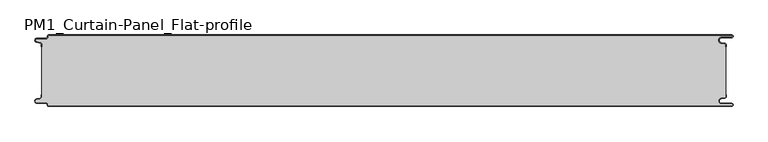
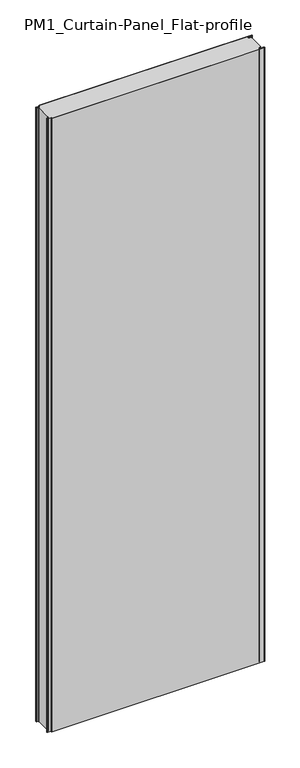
"""IFC4 building model written with IfcOpenShell, lengths in millimetres: plate geometry, PM1_Curtain-Panel_Flat-profile : ACH_PM1_Stone-wool-Panel_120M."""

from ifc_helpers import new_model, si_unit, point, frame_2d, origin, origin_with_axes, place, context, project, spatial, polyline, circle_curve, trimmed, segment, composite_curve, outline, extrude, source, transform, mapped, element, save


def pm1_curtain_panel_flat_profile_749cd09d(model_context):
    return source(origin(), model_context, "Body", "SweptSolid", [
        extrude(outline(composite_curve([segment(polyline([(-562.4, 0.0), (583.1, 0.0)]), True, "CONTINUOUS"), segment(trimmed(circle_curve(frame_2d((583.1, -2.5)), 2.5), [point((583.1, 0.0))], [point((583.1, -5.0))], False, "CARTESIAN"), True, "CONTINUOUS"), segment(polyline([(583.1, -5.0), (566.1, -5.0)]), True, "CONTINUOUS"), segment(trimmed(circle_curve(frame_2d((566.1, -9.0)), 4.0), [point((566.1, -5.0))], [point((565.4054075, -12.939231))], True, "CARTESIAN"), True, "CONTINUOUS"), segment(polyline([(565.4054075, -12.939231), (571.8514851, -14.075848)]), True, "CONTINUOUS"), segment(trimmed(circle_curve(frame_2d((571.4, -16.636348)), 2.6), [point((571.8514851, -14.075848))], [point((574.0, -16.636348))], False, "CARTESIAN"), True, "CONTINUOUS"), segment(polyline([(574.0, -16.636348), (574.0, -20.0), (573.2, -20.0), (573.2, -16.636348)]), True, "CONTINUOUS"), segment(trimmed(circle_curve(frame_2d((571.4, -16.636348)), 1.8), [point((573.2, -16.636348))], [point((571.7125666, -14.863694))], True, "CARTESIAN"), True, "CONTINUOUS"), segment(polyline([(571.7125666, -14.863694), (565.266489, -13.7270771)]), True, "CONTINUOUS"), segment(trimmed(circle_curve(frame_2d((566.1, -9.0)), 4.8), [point((565.266489, -13.7270771))], [point((566.1, -4.2))], False, "CARTESIAN"), True, "CONTINUOUS"), segment(polyline([(566.1, -4.2), (583.1, -4.2)]), True, "CONTINUOUS"), segment(trimmed(circle_curve(frame_2d((583.1, -2.5)), 1.7), [point((583.1, -4.2))], [point((583.1, -0.8))], True, "CARTESIAN"), True, "CONTINUOUS"), segment(polyline([(583.1, -0.8), (-562.4, -0.8)]), True, "CONTINUOUS"), segment(trimmed(circle_curve(frame_2d((-562.4, -2.0)), 1.2), [point((-562.4, -0.8))], [point((-563.6, -2.0))], True, "CARTESIAN"), True, "CONTINUOUS"), segment(polyline([(-563.6, -2.0), (-563.6, -3.4)]), True, "CONTINUOUS"), segment(trimmed(circle_curve(frame_2d((-566.4, -3.4)), 2.8), [point((-563.6, -3.4))], [point((-566.4, -6.2))], False, "CARTESIAN"), True, "CONTINUOUS"), segment(polyline([(-566.4, -6.2), (-581.9, -6.2)]), True, "CONTINUOUS"), segment(trimmed(circle_curve(frame_2d((-581.9, -9.0)), 2.8), [point((-581.9, -6.2))], [point((-582.529863, -11.7282362))], True, "CARTESIAN"), True, "CONTINUOUS"), segment(polyline([(-582.529863, -11.7282362), (-576.370137, -13.150321)]), True, "CONTINUOUS"), segment(trimmed(circle_curve(frame_2d((-577.0, -15.878557)), 2.8), [point((-576.370137, -13.150321))], [point((-574.2, -15.878557))], False, "CARTESIAN"), True, "CONTINUOUS"), segment(polyline([(-574.2, -15.878557), (-574.2, -20.0), (-575.0, -20.0), (-575.0, -15.878557)]), True, "CONTINUOUS"), segment(trimmed(circle_curve(frame_2d((-577.0, -15.878557)), 2.0), [point((-575.0, -15.878557))], [point((-576.5500978, -13.9298169))], True, "CARTESIAN"), True, "CONTINUOUS"), segment(polyline([(-576.5500978, -13.9298169), (-582.7098239, -12.507732)]), True, "CONTINUOUS"), segment(trimmed(circle_curve(frame_2d((-581.9, -9.0)), 3.6), [point((-582.7098239, -12.507732))], [point((-581.9, -5.4))], False, "CARTESIAN"), True, "CONTINUOUS"), segment(polyline([(-581.9, -5.4), (-566.4, -5.4)]), True, "CONTINUOUS"), segment(trimmed(circle_curve(frame_2d((-566.4, -3.4)), 2.0), [point((-566.4, -5.4))], [point((-564.4, -3.4))], True, "CARTESIAN"), True, "CONTINUOUS"), segment(polyline([(-564.4, -3.4), (-564.4, -2.0)]), True, "CONTINUOUS"), segment(trimmed(circle_curve(frame_2d((-562.4, -2.0)), 2.0), [point((-564.4, -2.0))], [point((-562.4, 0.0))], False, "CARTESIAN"), True, "CONTINUOUS")], self_intersect=False)), origin_with_axes(), (0.0, 0.0, 1.0), 3500.0),
        extrude(outline(composite_curve([segment(polyline([(-574.2, -104.1214426), (-574.2, -15.8785573)]), True, "CONTINUOUS"), segment(trimmed(circle_curve(frame_2d((-577.0, -15.8785573)), 2.8), [point((-574.2, -15.8785573))], [point((-576.370137, -13.1503212))], True, "CARTESIAN"), True, "CONTINUOUS"), segment(polyline([(-576.370137, -13.1503212), (-582.5298631, -11.7282362)]), True, "CONTINUOUS"), segment(trimmed(circle_curve(frame_2d((-581.9, -9.0)), 2.8), [point((-582.5298631, -11.7282362))], [point((-581.9, -6.2))], False, "CARTESIAN"), True, "CONTINUOUS"), segment(polyline([(-581.9, -6.2), (-566.4000001, -6.2)]), True, "CONTINUOUS"), segment(trimmed(circle_curve(frame_2d((-566.4000001, -3.4)), 2.8), [point((-566.4000001, -6.2))], [point((-563.6000001, -3.4))], True, "CARTESIAN"), True, "CONTINUOUS"), segment(polyline([(-563.6000001, -3.4), (-563.6000001, -2.0)]), True, "CONTINUOUS"), segment(trimmed(circle_curve(frame_2d((-562.4000001, -2.0)), 1.2), [point((-563.6000001, -2.0))], [point((-562.4000001, -0.8))], False, "CARTESIAN"), True, "CONTINUOUS"), segment(polyline([(-562.4000001, -0.8), (583.1, -0.8)]), True, "CONTINUOUS"), segment(trimmed(circle_curve(frame_2d((583.1, -2.5)), 1.7), [point((583.1, -0.8))], [point((583.1, -4.2))], False, "CARTESIAN"), True, "CONTINUOUS"), segment(polyline([(583.1, -4.2), (566.1, -4.2)]), True, "CONTINUOUS"), segment(trimmed(circle_curve(frame_2d((566.1, -9.0)), 4.8), [point((566.1, -4.2))], [point((565.2664883, -13.7270771))], True, "CARTESIAN"), True, "CONTINUOUS"), segment(polyline([(565.2664883, -13.7270771), (571.7125668, -14.8636953)]), True, "CONTINUOUS"), segment(trimmed(circle_curve(frame_2d((571.4, -16.6363492)), 1.8), [point((571.7125668, -14.8636953))], [point((573.2, -16.6363492))], False, "CARTESIAN"), True, "CONTINUOUS"), segment(polyline([(573.2, -16.6363492), (573.2, -103.3636508)]), True, "CONTINUOUS"), segment(trimmed(circle_curve(frame_2d((571.4, -103.3636508)), 1.8), [point((573.2, -103.3636508))], [point((571.7125668, -105.1363047))], False, "CARTESIAN"), True, "CONTINUOUS"), segment(polyline([(571.7125668, -105.1363047), (565.2664883, -106.2729229)]), True, "CONTINUOUS"), segment(trimmed(circle_curve(frame_2d((566.1, -111.0)), 4.8), [point((565.2664883, -106.2729229))], [point((566.1, -115.8))], True, "CARTESIAN"), True, "CONTINUOUS"), segment(polyline([(566.1, -115.8), (583.1, -115.8)]), True, "CONTINUOUS"), segment(trimmed(circle_curve(frame_2d((583.1, -117.5)), 1.7), [point((583.1, -115.8))], [point((583.1, -119.2))], False, "CARTESIAN"), True, "CONTINUOUS"), segment(polyline([(583.1, -119.2), (-562.4000001, -119.2)]), True, "CONTINUOUS"), segment(trimmed(circle_curve(frame_2d((-562.4000001, -118.0)), 1.2), [point((-562.4000001, -119.2))], [point((-563.6000001, -118.0))], False, "CARTESIAN"), True, "CONTINUOUS"), segment(polyline([(-563.6000001, -118.0), (-563.6000001, -116.6)]), True, "CONTINUOUS"), segment(trimmed(circle_curve(frame_2d((-566.4000001, -116.6)), 2.8), [point((-563.6000001, -116.6))], [point((-566.4000001, -113.8))], True, "CARTESIAN"), True, "CONTINUOUS"), segment(polyline([(-566.4000001, -113.8), (-581.9, -113.8)]), True, "CONTINUOUS"), segment(trimmed(circle_curve(frame_2d((-581.9, -111.0)), 2.8), [point((-581.9, -113.8))], [point((-582.5298631, -108.2717638))], False, "CARTESIAN"), True, "CONTINUOUS"), segment(polyline([(-582.5298631, -108.2717638), (-576.370137, -106.8496788)]), True, "CONTINUOUS"), segment(trimmed(circle_curve(frame_2d((-577.0, -104.1214426)), 2.8), [point((-576.370137, -106.8496788))], [point((-574.2, -104.1214426))], True, "CARTESIAN"), True, "CONTINUOUS")], self_intersect=False)), origin_with_axes(), (0.0, 0.0, 1.0), 3500.0),
        extrude(outline(composite_curve([segment(polyline([(583.1, -120.0), (-562.4, -120.0)]), True, "CONTINUOUS"), segment(trimmed(circle_curve(frame_2d((-562.4, -118.0)), 2.0), [point((-562.4, -120.0))], [point((-564.4, -118.0))], False, "CARTESIAN"), True, "CONTINUOUS"), segment(polyline([(-564.4, -118.0), (-564.4, -116.6)]), True, "CONTINUOUS"), segment(trimmed(circle_curve(frame_2d((-566.4, -116.6)), 2.0), [point((-564.4, -116.6))], [point((-566.4, -114.6))], True, "CARTESIAN"), True, "CONTINUOUS"), segment(polyline([(-566.4, -114.6), (-581.9, -114.6)]), True, "CONTINUOUS"), segment(trimmed(circle_curve(frame_2d((-581.9, -111.0)), 3.6), [point((-581.9, -114.6))], [point((-582.7098239, -107.4922678))], False, "CARTESIAN"), True, "CONTINUOUS"), segment(polyline([(-582.7098239, -107.4922678), (-576.5500979, -106.070183)]), True, "CONTINUOUS"), segment(trimmed(circle_curve(frame_2d((-577.0, -104.121443)), 2.0), [point((-576.5500979, -106.070183))], [point((-575.0, -104.121443))], True, "CARTESIAN"), True, "CONTINUOUS"), segment(polyline([(-575.0, -104.121443), (-575.0, -100.0), (-574.2, -100.0), (-574.2, -104.121443)]), True, "CONTINUOUS"), segment(trimmed(circle_curve(frame_2d((-577.0, -104.121443)), 2.8), [point((-574.2, -104.121443))], [point((-576.370137, -106.8496792))], False, "CARTESIAN"), True, "CONTINUOUS"), segment(polyline([(-576.370137, -106.8496792), (-582.529863, -108.271764)]), True, "CONTINUOUS"), segment(trimmed(circle_curve(frame_2d((-581.9, -111.0)), 2.8), [point((-582.529863, -108.271764))], [point((-581.9, -113.8))], True, "CARTESIAN"), True, "CONTINUOUS"), segment(polyline([(-581.9, -113.8), (-566.4, -113.8)]), True, "CONTINUOUS"), segment(trimmed(circle_curve(frame_2d((-566.4, -116.6)), 2.8), [point((-566.4, -113.8))], [point((-563.6, -116.6))], False, "CARTESIAN"), True, "CONTINUOUS"), segment(polyline([(-563.6, -116.6), (-563.6, -118.0)]), True, "CONTINUOUS"), segment(trimmed(circle_curve(frame_2d((-562.4, -118.0)), 1.2), [point((-563.6, -118.0))], [point((-562.4, -119.2))], True, "CARTESIAN"), True, "CONTINUOUS"), segment(polyline([(-562.4, -119.2), (583.1, -119.2)]), True, "CONTINUOUS"), segment(trimmed(circle_curve(frame_2d((583.1, -117.5)), 1.7), [point((583.1, -119.2))], [point((583.1, -115.8))], True, "CARTESIAN"), True, "CONTINUOUS"), segment(polyline([(583.1, -115.8), (566.1, -115.8)]), True, "CONTINUOUS"), segment(trimmed(circle_curve(frame_2d((566.1, -111.0)), 4.8), [point((566.1, -115.8))], [point((565.266489, -106.2729227))], False, "CARTESIAN"), True, "CONTINUOUS"), segment(polyline([(565.266489, -106.2729227), (571.7125666, -105.1363058)]), True, "CONTINUOUS"), segment(trimmed(circle_curve(frame_2d((571.4, -103.363652)), 1.8), [point((571.7125666, -105.1363058))], [point((573.2, -103.363652))], True, "CARTESIAN"), True, "CONTINUOUS"), segment(polyline([(573.2, -103.363652), (573.2, -100.0), (574.0, -100.0), (574.0, -103.363652)]), True, "CONTINUOUS"), segment(trimmed(circle_curve(frame_2d((571.4, -103.363652)), 2.6), [point((574.0, -103.363652))], [point((571.8514851, -105.9241522))], False, "CARTESIAN"), True, "CONTINUOUS"), segment(polyline([(571.8514851, -105.9241522), (565.4054075, -107.0607691)]), True, "CONTINUOUS"), segment(trimmed(circle_curve(frame_2d((566.1, -111.0)), 4.0), [point((565.4054075, -107.0607691))], [point((566.1, -115.0))], True, "CARTESIAN"), True, "CONTINUOUS"), segment(polyline([(566.1, -115.0), (583.1, -115.0)]), True, "CONTINUOUS"), segment(trimmed(circle_curve(frame_2d((583.1, -117.5)), 2.5), [point((583.1, -115.0))], [point((583.1, -120.0))], False, "CARTESIAN"), True, "CONTINUOUS")], self_intersect=False)), origin_with_axes(), (0.0, 0.0, 1.0), 3500.0),
    ])


if __name__ == "__main__":
    model = new_model("IFC4")
    model_context = context("Model", 3, world=origin())
    ifc_project = project(units=[si_unit("LENGTHUNIT", "METRE", prefix="MILLI")], contexts=[model_context])
    site = spatial("IfcSite", under=ifc_project)
    building = spatial("IfcBuilding", under=site)
    placement = place(None, origin())
    pm1_curtain_panel_flat_profile_shape = pm1_curtain_panel_flat_profile_749cd09d(model_context)
    element("IfcPlate", 1, ObjectType="PM1_Curtain-Panel_Flat-profile : ACH_PM1_Stone-wool-Panel_120M", at=placement, inside=building, context=model_context, shape_type="MappedRepresentation", body=[
        mapped(pm1_curtain_panel_flat_profile_shape, transform((0.0, 0.0, 0.0), x_axis=(1.0, 0.0, 0.0), y_axis=(0.0, 1.0, 0.0), z_axis=(0.0, 0.0, 1.0))),
    ])
    save(model, "model.ifc")
